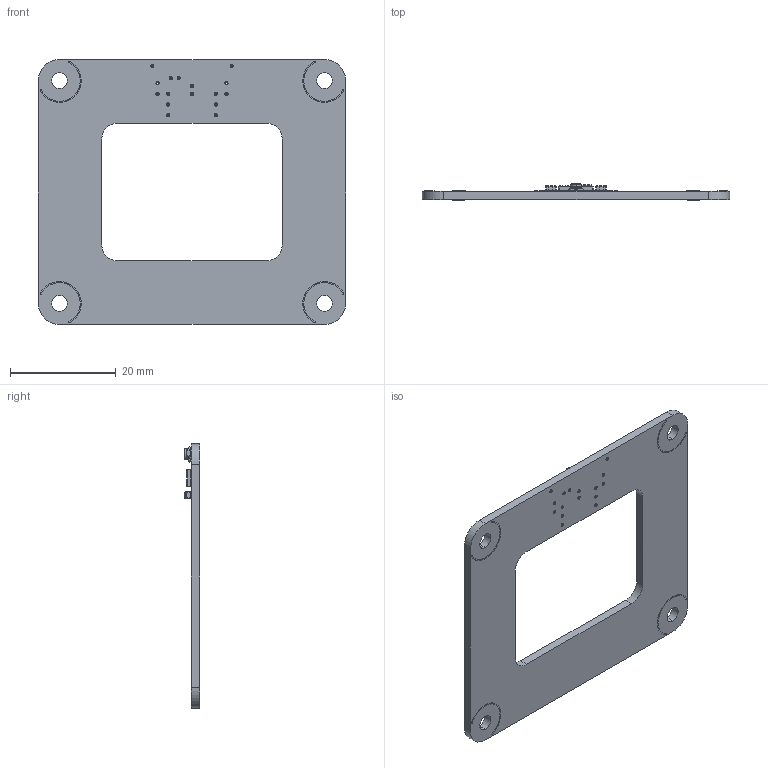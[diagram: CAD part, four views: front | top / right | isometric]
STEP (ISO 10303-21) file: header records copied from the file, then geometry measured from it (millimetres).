
FILE_DESCRIPTION (( 'STEP AP214' ), '1' );
FILE_NAME ('RFIDANT1.STEP', '2024-03-05T11:34:14', ( '' ), ( '' ), 'SwSTEP 2.0', 'SolidWorks 2008', '' );
FILE_SCHEMA (( 'AUTOMOTIVE_DESIGN' ));
Length unit declared in the file: millimetre
Products named in the file (7): ANT1_D; C7; C10; PCB; RFIDANT1; C11; R2
Assembly tree (7 placements, depth 2):
  RFIDANT1
    R2
    C10
    ANT1_D
    C7  x2
    PCB
    C11
Bounding box: 58 x 2.96 x 50 mm (x, y, z)
Volume: 3197.4 mm3; surface area: 4702.8 mm2
Topology: 7 solids, 7 shells, 632 faces, 1545 edges, 960 vertices
Faces by surface type: cylinder 284, plane 282, sphere 33, bspline 27, cone 6
Entity records: 24554 total; most frequent: CARTESIAN_POINT 4701, DIRECTION 3028, ORIENTED_EDGE 2832, EDGE_CURVE 1416, AXIS2_PLACEMENT_3D 1101, VERTEX_POINT 906, VECTOR 826, LINE 826
